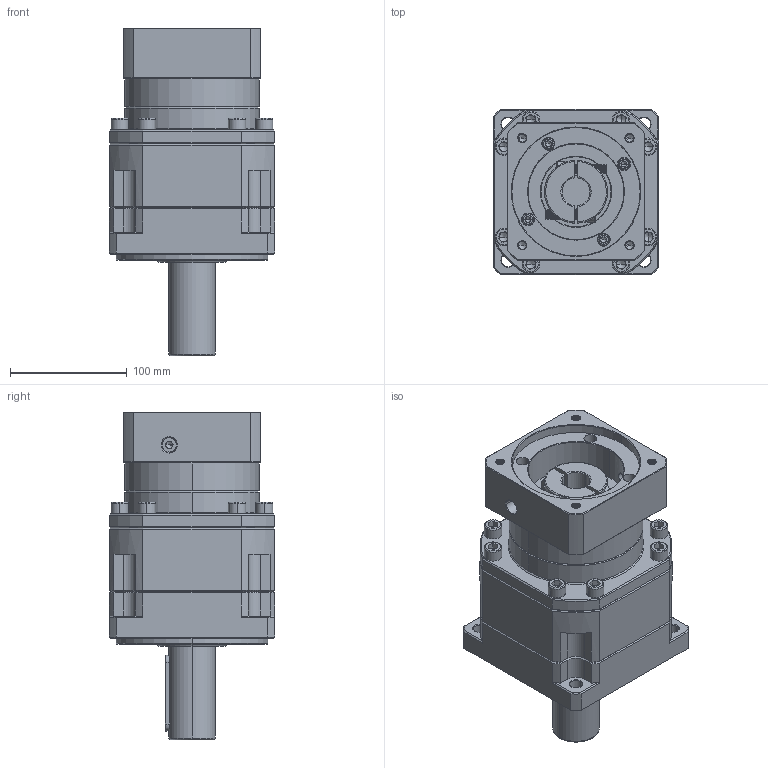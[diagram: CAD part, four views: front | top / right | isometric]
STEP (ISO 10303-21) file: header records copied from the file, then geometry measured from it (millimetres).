
FILE_DESCRIPTION (( 'STEP AP214' ), '1' );
FILE_NAME ('ZB142A-D40-L2-24-110-130-M8.step', '2023-03-18T07:04:44', ( '' ), ( '' ), 'SwSTEP 2.0', 'SolidWorks 2016', '' );
FILE_SCHEMA (( 'AUTOMOTIVE_DESIGN' ));
Length unit declared in the file: millimetre
Products named in the file (1): ZB142A-D40-L2-24-110-130-M8
Bounding box: 142 x 142 x 280.7 mm (x, y, z)
Volume: 2940023.4 mm3; surface area: 239050.7 mm2
Topology: 6 solids, 6 shells, 2265 faces, 5826 edges, 3682 vertices
Faces by surface type: plane 1025, cylinder 490, cone 385, bspline 307, torus 58
Entity records: 119676 total; most frequent: CARTESIAN_POINT 42315, ORIENTED_EDGE 11544, DIRECTION 9812, EDGE_CURVE 5772, VERTEX_POINT 3682, LINE 3584, VECTOR 3584, AXIS2_PLACEMENT_3D 3114
